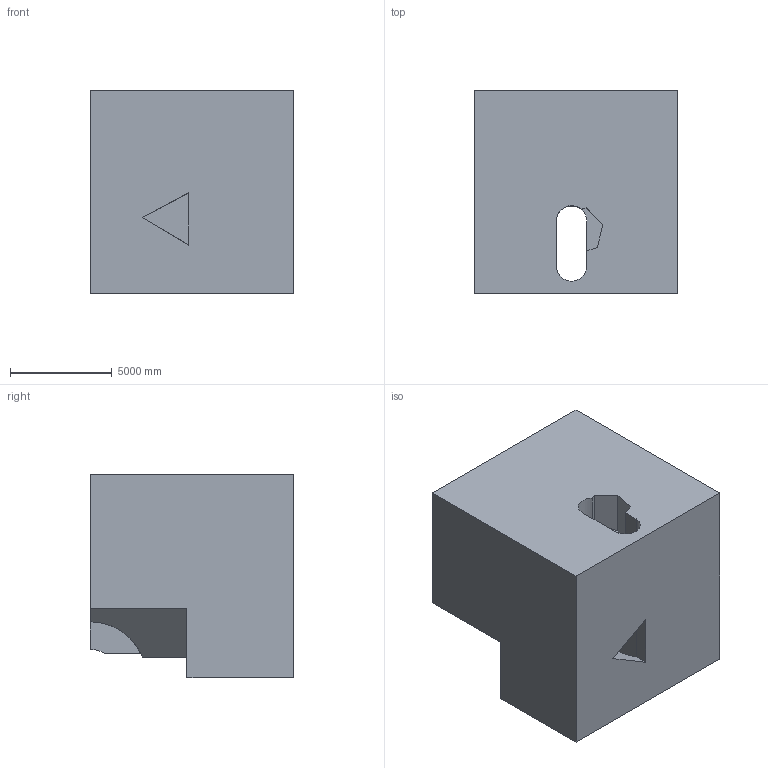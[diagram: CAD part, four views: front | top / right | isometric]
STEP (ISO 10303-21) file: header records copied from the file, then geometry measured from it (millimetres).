
FILE_DESCRIPTION (( 'STEP AP203' ), '1' );
FILE_NAME ('1602.STEP', '2022-08-26T10:29:40', ( 'user' ), ( '' ), 'SwSTEP 2.0', 'SolidWorks 2021', '' );
FILE_SCHEMA (( 'CONFIG_CONTROL_DESIGN' ));
Length unit declared in the file: centimetre
Products named in the file (1): 1602
Bounding box: 10000 x 10000 x 10000 mm (x, y, z)
Volume: 769262180251.8 mm3; surface area: 735702668.9 mm2
Topology: 1 solids, 1 shells, 34 faces, 102 edges, 68 vertices
Faces by surface type: plane 26, cylinder 8
Entity records: 1404 total; most frequent: CARTESIAN_POINT 430, ORIENTED_EDGE 204, DIRECTION 166, EDGE_CURVE 102, VECTOR 72, LINE 72, VERTEX_POINT 68, AXIS2_PLACEMENT_3D 47
